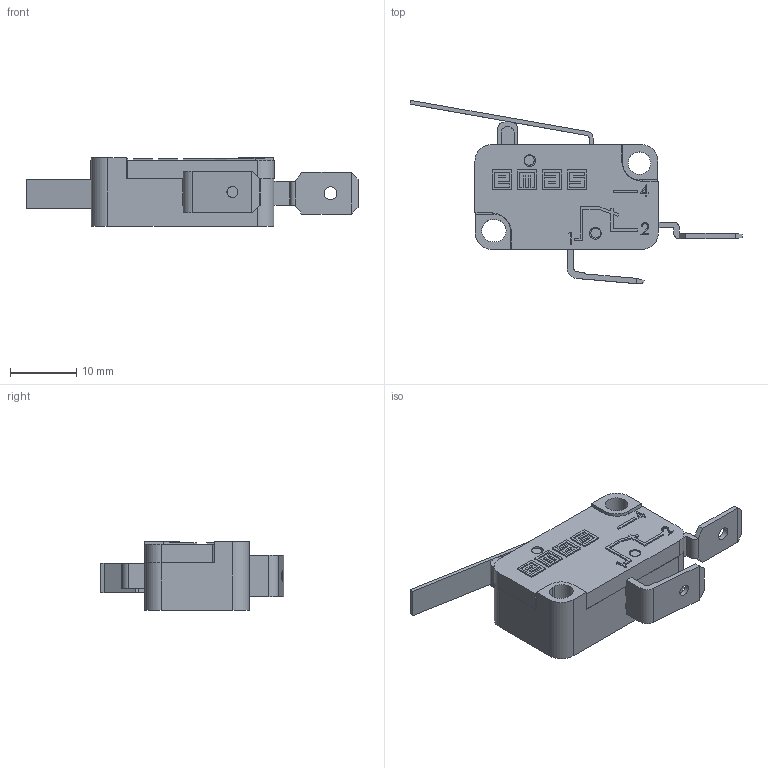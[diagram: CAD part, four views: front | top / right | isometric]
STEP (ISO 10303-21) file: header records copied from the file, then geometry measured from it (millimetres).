
FILE_DESCRIPTION((''),'2; 1');
FILE_NAME('','2026-03-27T16:18:40',(''),(''),'CST STEP Exporter V1.0','Unknown','');
FILE_SCHEMA(('CONFIG_CONTROL_DESIGN'));
Length unit declared in the file: metre
Assembly tree (9 placements, depth 2):
  (unnamed)
    (unnamed)
    (unnamed)
    (unnamed)
    (unnamed)
    (unnamed)
    (unnamed)
    (unnamed)
    (unnamed)
    (unnamed)
Bounding box: 50.17 x 27.7 x 10.4 mm (x, y, z)
Surface area: 6886.5 mm2 (no closed solid volume)
Topology: 0 solids, 9 shells, 269 faces, 984 edges, 738 vertices
Faces by surface type: plane 230, cylinder 33, extrusion 6
Full cylindrical faces by diameter (mm): 1.5 x2, 1.7 x1, 1.75 x2, 1.95 x1, 3.4 x1
Entity records: 12812 total; most frequent: CARTESIAN_POINT 2171, DIRECTION 1635, ORIENTED_EDGE 1615, EDGE_CURVE 975, VECTOR 823, LINE 817, VERTEX_POINT 736, AXIS2_PLACEMENT_3D 406
